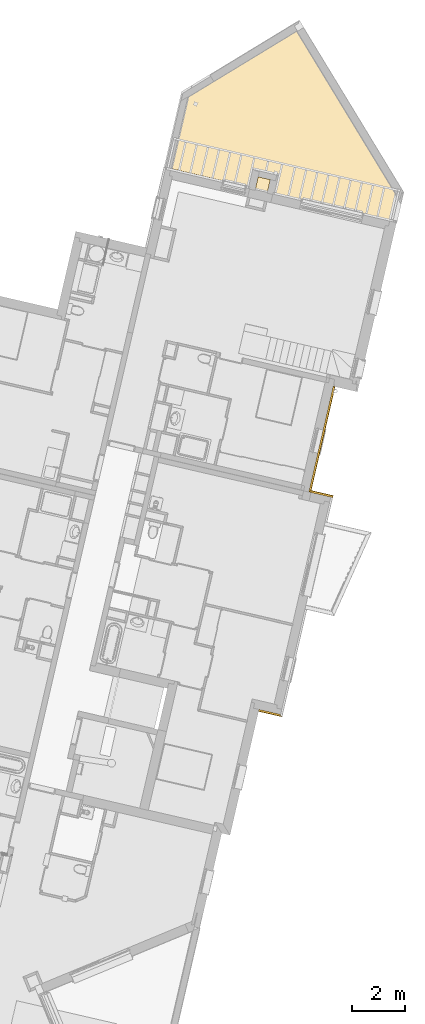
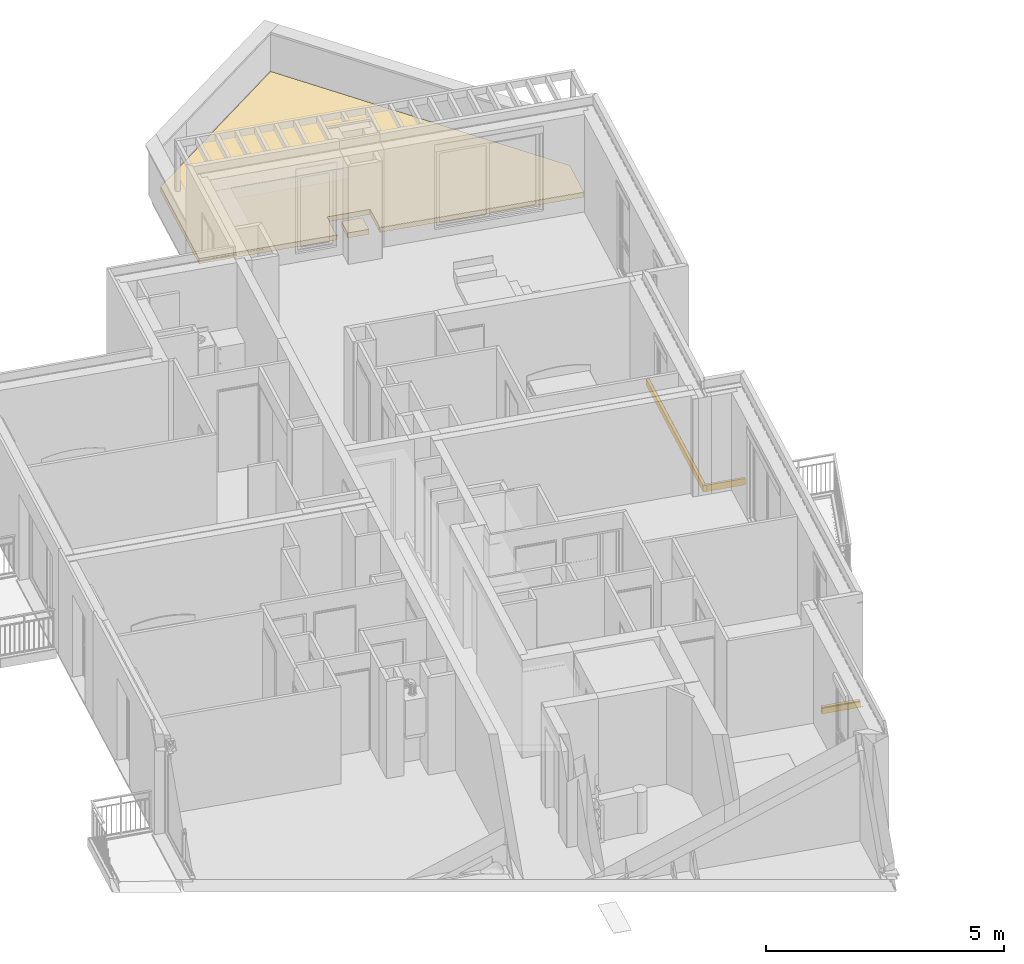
# One storey, part 43 of 62: 4 coverings.
"""IFC2X3 building model written with IfcOpenShell, lengths in metres."""

from ifc_helpers import new_model, entity, si_unit, converted_unit, derived_unit, money_unit, direction, frame, origin_with_axes, place, context, subcontext, project, spatial, faceted_brep, material, material_list, type_object, element, save


model = new_model("IFC2X3")

# Units and contexts
model_context = context("Model", 3, precision=1e-05, world=origin_with_axes(), true_north=direction((0.0, 1.0)))
body_context = subcontext(model_context, "Body", "Model", "MODEL_VIEW")
ifc_project = project(units=[si_unit("LENGTHUNIT", "METRE"), si_unit("AREAUNIT", "SQUARE_METRE"), si_unit("VOLUMEUNIT", "CUBIC_METRE"), converted_unit("PLANEANGLEUNIT", "DEGREE", entity("IfcPlaneAngleMeasure", 0.0174532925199), si_unit("PLANEANGLEUNIT", "RADIAN"), dimensions=[0, 0, 0, 0, 0, 0, 0]), si_unit("SOLIDANGLEUNIT", "STERADIAN"), money_unit("EUR"), converted_unit("TIMEUNIT", "Year", entity("IfcTimeMeasure", 31556926.0), si_unit("TIMEUNIT", "SECOND"), dimensions=[0, 0, 1, 0, 0, 0, 0]), si_unit("MASSUNIT", "GRAM", prefix="KILO"), si_unit("THERMODYNAMICTEMPERATUREUNIT", "DEGREE_CELSIUS"), si_unit("LUMINOUSINTENSITYUNIT", "LUMEN"), si_unit("ENERGYUNIT", "JOULE", prefix="MEGA"), derived_unit("THERMALCONDUCTANCEUNIT", [(si_unit("POWERUNIT", "WATT"), 1), (si_unit("LENGTHUNIT", "METRE"), -1), (si_unit("THERMODYNAMICTEMPERATUREUNIT", "KELVIN"), -1)]), derived_unit("SPECIFICHEATCAPACITYUNIT", [(si_unit("ENERGYUNIT", "JOULE"), 1), (si_unit("MASSUNIT", "GRAM", prefix="KILO"), -1), (si_unit("THERMODYNAMICTEMPERATUREUNIT", "KELVIN"), -1)]), derived_unit("MASSDENSITYUNIT", [(si_unit("MASSUNIT", "GRAM", prefix="KILO"), 1), (si_unit("VOLUMEUNIT", "CUBIC_METRE"), -1)])], contexts=[model_context])

# Site, building, storey
site_placement = place(None, origin_with_axes())
site = spatial("IfcSite", under=ifc_project, at=site_placement, Name="Site", CompositionType="ELEMENT")
building_placement = place(site_placement, origin_with_axes())
building = spatial("IfcBuilding", under=site, at=building_placement, Name="Bâtiment", CompositionType="ELEMENT")
storey_placement = place(building_placement, frame((0.0, 0.0, 8.16), z_axis=(0.0, 0.0, 1.0), x_axis=(1.0, 0.0, 0.0)))
storey = spatial("IfcBuildingStorey", under=building, at=storey_placement, Name="R+3", CompositionType="ELEMENT", Elevation=8.16)

# Coverings
ifc_material_1 = material(Name="Finition sol - Carrelage")
covering_type_1 = type_object("IfcCoveringType", Name="Bandeau de façade composite 80 x 165", PredefinedType="USERDEFINED")
covering_1_placement = place(storey_placement, frame((-1.97663873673, 2.63074442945, -0.165), z_axis=(0.0, 0.0, 1.0), x_axis=(0.22487619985, 0.974387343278, 0.0)))
element("IfcCovering", 1, at=covering_1_placement, inside=storey, type_object=covering_type_1, material=ifc_material_1, Name="Bandeaux de façade préfa composite", ObjectType="MOLDING", PredefinedType="USERDEFINED", context=body_context, shape_type="Brep", body=[
    faceted_brep([(-0.08, 0.0, 0.00621912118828), (-0.0258592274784, 0.0, 0.00621912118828), (-0.0177527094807, 0.0, 0.00621912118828), (-0.012552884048, 0.0, 0.0), (4.02599999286, 0.0, 0.0), (4.02599999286, 0.0, 0.00621912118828), (4.02599999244, 0.0, 0.144794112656), (-0.0799999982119, 0.0, 0.144794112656), (-0.0800000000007, 0.0177527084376, 0.00621912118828), (-0.025859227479, 0.0177527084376, 0.00621912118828), (-0.0177527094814, 0.0177527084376, 0.00621912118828), (-0.0125528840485, 0.0125528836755, 0.0), (4.02599999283, 0.0125528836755, 0.0), (4.02599999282, 0.0177527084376, 0.00621912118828), (4.0259999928, 0.0258592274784, 0.00621912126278), (4.02599999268, 0.08, 0.00621912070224), (4.02599999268, 0.08, 0.165000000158), (4.02599999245, 0.0142855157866, 0.16), (-0.0799999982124, 0.0142855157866, 0.16), (-0.0799999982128, 0.0258592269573, 0.00621912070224), (-0.0799999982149, 0.08, 0.164999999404), (-0.0799999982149, 0.08, 0.0), (-0.079999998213, 0.0310590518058, 0.0), (4.02599999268, 0.08, 0.0), (4.02599999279, 0.0310590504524, 0.0)], [[[0, 1, 2, 3, 4, 5, 6, 7]], [[8, 9, 1, 0]], [[10, 2, 1, 9]], [[10, 11, 3, 2]], [[4, 3, 11, 12]], [[12, 13, 5, 4]], [[6, 5, 13, 14, 15, 16, 17]], [[7, 6, 17, 18]], [[19, 8, 0, 7, 18, 20, 21, 22]], [[13, 10, 9, 8, 19, 14]], [[12, 11, 10, 13]], [[23, 15, 14, 24]], [[16, 15, 23, 21, 20]], [[18, 17, 16, 20]], [[21, 23, 24, 22]], [[22, 24, 14, 19]]]),
])
covering_2_placement = place(storey_placement, frame((-1.14274959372, 2.43829342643, -0.165), z_axis=(0.0, 0.0, 1.0), x_axis=(-0.974387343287, 0.224876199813, 0.0)))
element("IfcCovering", 2, at=covering_2_placement, inside=storey, type_object=covering_type_1, material=ifc_material_1, Name="Bandeaux de façade préfa composite", ObjectType="MOLDING", PredefinedType="USERDEFINED", context=body_context, shape_type="Brep", body=[
    faceted_brep([(1.78814163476e-09, 0.0, 0.0), (0.855808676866, 0.0, 0.0), (0.855808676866, 0.0, 0.00621912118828), (0.855808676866, 0.0, 0.144794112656), (1.78814163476e-09, 0.0, 0.144794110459), (1.78861192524e-09, 0.0125528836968, 0.0), (0.855808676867, 0.0125528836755, 0.0), (0.855808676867, 0.0177527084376, 0.00621912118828), (0.855808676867, 0.0258592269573, 0.00621912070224), (0.855808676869, 0.0799999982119, 0.00621912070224), (0.855808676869, 0.0799999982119, 0.144794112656), (0.870094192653, 0.0142855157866, 0.16), (0.0142855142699, 0.0142855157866, 0.160000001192), (1.79113834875e-09, 0.08, 0.144794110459), (0.0, 0.08, 0.00621912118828), (0.0, 0.0258592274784, 0.00621912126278), (1.78880665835e-09, 0.0177527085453, 0.00621912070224), (0.0177527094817, 0.0258592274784, 0.00621912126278), (0.0258592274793, 0.0258592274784, 0.00621912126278), (0.873561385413, 0.0258592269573, 0.00621912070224), (0.873561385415, 0.0799999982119, 0.00621912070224), (0.0310590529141, 0.08, 0.0), (0.0258592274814, 0.08, 0.00621912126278), (0.0177527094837, 0.08, 0.00621912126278), (0.0142855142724, 0.08, 0.160000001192), (0.0799999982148, 0.08, 0.164999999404), (0.935808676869, 0.0799999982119, 0.164999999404), (0.870094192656, 0.0799999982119, 0.16), (0.881667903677, 0.0799999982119, 0.00621912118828), (0.886867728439, 0.0799999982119, 0.0), (0.0310590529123, 0.0310590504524, 0.0), (0.886867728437, 0.0310590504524, 0.0), (0.881667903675, 0.0258592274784, 0.00621912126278)], [[[0, 1, 2, 3, 4]], [[5, 6, 1, 0]], [[6, 7, 2, 1]], [[3, 2, 7, 8, 9, 10]], [[4, 3, 11, 12]], [[13, 14, 15, 16, 5, 0, 4]], [[16, 7, 6, 5]], [[15, 17, 18, 8, 7, 16]], [[9, 8, 19, 20]], [[21, 22, 23, 14, 13, 24, 25, 26, 27, 10, 9, 20, 28, 29]], [[27, 11, 3, 10]], [[12, 11, 26, 25]], [[24, 13, 4, 12]], [[14, 23, 17, 15]], [[22, 18, 17, 23]], [[8, 18, 30, 31, 32, 19]], [[19, 32, 28, 20]], [[21, 30, 18, 22]], [[25, 24, 12]], [[27, 26, 11]], [[29, 28, 32, 31]], [[31, 30, 21, 29]]]),
])
covering_3_placement = place(storey_placement, frame((-3.98776258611, -5.72769290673, -0.165), z_axis=(0.0, 0.0, 1.0), x_axis=(0.974387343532, -0.224876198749, 0.0)))
element("IfcCovering", 3, at=covering_3_placement, inside=storey, type_object=covering_type_1, material=ifc_material_1, Name="Bandeaux de façade préfa composite", ObjectType="MOLDING", PredefinedType="USERDEFINED", context=body_context, shape_type="Brep", body=[
    faceted_brep([(0.909949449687, 0.0177527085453, 0.00621912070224), (0.918055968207, 0.0177527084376, 0.00621912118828), (0.923255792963, 0.0125528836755, 0.0), (0.0149999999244, 0.0125528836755, 0.0), (0.0149999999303, 0.0177527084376, 0.00621912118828), (0.855808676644, 0.0177527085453, 0.00621912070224), (0.909949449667, 0.0, 0.00621912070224), (0.918055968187, 0.0, 0.00621912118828), (0.923255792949, 0.0, 0.0), (0.0149999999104, 0.0, 0.0), (0.0149999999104, 0.0, 0.00621912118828), (0.0149999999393, 0.0258592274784, 0.00621912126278), (0.855808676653, 0.0258592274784, 0.00621912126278), (0.855808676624, 0.0, 0.00621912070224), (0.855808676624, 0.0, 0.144794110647), (0.0149999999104, 0.0, 0.144794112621), (0.0149999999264, 0.0142855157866, 0.160000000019), (0.015, 0.08, 0.165), (0.015, 0.08, 0.00621912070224), (0.0149999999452, 0.0310590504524, 0.0), (0.855808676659, 0.0310590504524, 0.0), (0.855808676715, 0.08, 0.00621912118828), (0.855808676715, 0.08, 0.165), (0.85580867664, 0.0142855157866, 0.160000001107), (0.855808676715, 0.08, 0.0), (0.015, 0.08, 0.0)], [[[0, 1, 2, 3, 4, 5]], [[6, 7, 1, 0]], [[7, 8, 2, 1]], [[3, 2, 8, 9]], [[9, 10, 4, 3]], [[11, 12, 5, 4]], [[6, 0, 5, 13]], [[9, 8, 7, 6, 13, 14, 15, 10]], [[11, 4, 10, 15, 16, 17, 18]], [[19, 20, 12, 11]], [[5, 12, 21, 22, 23, 14, 13]], [[15, 14, 23, 16]], [[16, 23, 22, 17]], [[22, 21, 24, 25, 18, 17]], [[19, 11, 18, 25]], [[25, 24, 20, 19]], [[20, 24, 21, 12]]]),
])
ifc_material_2 = material(Name="Finition sol - Dalles terrasse")
ifc_material_3 = material(Name="Divers - Vide")
ifc_material_list = material_list([ifc_material_2, ifc_material_3])
covering_type_2 = type_object("IfcCoveringType", Name="6 -Dalles sur plots 130", PredefinedType="INSULATION")
covering_4_placement = place(storey_placement, frame((-6.64328327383, 17.4921562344, 0.24), z_axis=(0.0, 0.0, 1.0), x_axis=(1.0, 0.0, 0.0)))
element("IfcCovering", 4, at=covering_4_placement, inside=storey, type_object=covering_type_2, material=ifc_material_list, Name="Dalle_004", PredefinedType="INSULATION", context=body_context, shape_type="Brep", body=[
    faceted_brep([(3.01328106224, -3.55045317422, 0.0), (3.11504814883, -3.10949694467, 0.0), (2.6577451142, -3.00395722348, 0.0), (2.5563520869, -3.44329265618, 0.0), (3.11504814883, -3.10949694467, -0.05), (3.01328106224, -3.55045317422, -0.05), (2.6577451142, -3.00395722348, -0.05), (2.5563520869, -3.44329265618, -0.05)], [[[0, 1, 2, 3]], [[4, 1, 0, 5]], [[1, 4, 6, 2]], [[2, 6, 7, 3]], [[5, 0, 3, 7]], [[4, 5, 7, 6]]]),
    faceted_brep([(2.34833684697, -3.38853993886, -0.01), (2.34703016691, -3.39420177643, -0.00999999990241), (2.34703016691, -3.39420177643, -0.04), (2.34833684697, -3.38853993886, -0.04), (0.750866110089, -3.01986402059, -0.01), (0.750866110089, -3.01986402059, -0.04), (-0.622606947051, -2.69775248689, -0.04), (-0.622606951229, -2.69775250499, -0.05), (2.32269040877, -3.3884935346, -0.05), (2.32269040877, -3.3884935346, -0.0399999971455), (2.32397716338, -3.38291803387, -0.04), (2.32510154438, -3.37804609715, -0.04), (-0.622606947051, -2.69775248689, -0.005), (-0.622606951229, -2.69775250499, 0.0), (0.0, 0.0, 0.0), (0.0, 0.0, -0.0176617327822), (-0.00012325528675, -0.000534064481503, -0.0178200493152), (-0.000123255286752, -0.000534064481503, -0.0471179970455), (0.0, 0.0, -0.0471179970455), (0.0, 0.0, -0.05), (3.24694274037, -3.60525229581, -0.05), (3.39387635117, -2.96858976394, -0.05), (3.40287139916, -2.92961427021, -0.05), (2.51683793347, -2.72512902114, -0.05), (2.47786243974, -2.71613397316, -0.05), (4.11913271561, 2.50359545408, -0.05), (7.84859522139, -3.63244022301, -0.05), (7.61827164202, -4.63043103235, -0.05), (2.47786243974, -2.71613397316, 0.0), (2.32269040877, -3.3884935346, 0.0), (2.32269040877, -3.3884935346, -0.00500000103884), (2.32510154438, -3.37804609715, -0.005), (3.39387635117, -2.96858976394, 0.0), (3.24694274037, -3.60525229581, 0.0), (7.61827164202, -4.63043103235, 0.0), (7.84859522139, -3.63244022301, 0.0), (4.11913271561, 2.50359545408, 0.0), (2.51683793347, -2.72512902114, 0.0), (3.40287139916, -2.92961427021, 0.0), (0.982453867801, 0.597132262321, -0.0471179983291), (0.982453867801, 0.597132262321, -0.0176617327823), (0.982657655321, 0.596796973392, -0.0178200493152), (0.982657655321, 0.596796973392, -0.0471179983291), (3.24694274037, -3.60525229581, -0.0399999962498), (3.24898611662, -3.5963983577, -0.0399999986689), (3.25011049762, -3.59152642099, -0.04), (3.25011049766, -3.5915264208, -0.00499999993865), (3.24694274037, -3.60525229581, -0.00499999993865), (7.62389355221, -4.60607132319, -0.01), (7.61827164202, -4.63043103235, -0.0100000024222), (7.61827164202, -4.63043103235, -0.00499999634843), (7.62501793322, -4.60119938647, -0.005), (7.62501793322, -4.60119938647, -0.04), (7.62389355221, -4.60607132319, -0.04), (3.22260298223, -3.59954405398, -0.00999999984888), (3.22260298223, -3.59954405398, -0.0399999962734), (3.22462643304, -3.59077645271, -0.0399999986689), (3.22462643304, -3.59077645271, -0.01)], [[[0, 1, 2, 3]], [[1, 0, 4]], [[5, 6, 7, 8, 9, 2, 1, 4]], [[10, 3, 2, 9]], [[0, 3, 10, 5, 4]], [[10, 11, 6, 5]], [[6, 12, 13, 14, 15, 16, 17, 18, 19, 7]], [[20, 21, 22, 23, 24, 8, 7, 19, 25, 26, 27]], [[11, 10, 9, 8, 24, 28, 29, 30, 31]], [[11, 31, 12, 6]], [[12, 30, 29, 13]], [[32, 33, 34, 35, 36, 14, 13, 29, 28, 37, 38]], [[18, 39, 40, 15, 14, 36, 25, 19]], [[15, 40, 41, 16]], [[17, 16, 41, 42]], [[39, 18, 17, 42]], [[33, 32, 21, 20, 43, 44, 45, 46, 47]], [[21, 32, 38, 22]], [[38, 37, 23, 22]], [[23, 37, 28, 24]], [[26, 25, 36, 35]], [[48, 49, 27, 26, 35, 34, 50, 51, 52, 53]], [[43, 20, 27, 49, 54, 55]], [[31, 30, 12]], [[33, 47, 50, 34]], [[40, 39, 42, 41]], [[56, 44, 43, 55]], [[45, 44, 53, 52]], [[46, 45, 52, 51]], [[47, 46, 51, 50]], [[57, 54, 49, 48]], [[56, 57, 48, 53, 44]], [[54, 57, 56, 55]]]),
    faceted_brep([(3.01328106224, -3.55045317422, -0.05), (3.11504814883, -3.10949694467, -0.05), (2.6577451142, -3.00395722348, -0.05), (2.5563520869, -3.44329265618, -0.05), (3.11504814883, -3.10949694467, -0.13), (3.01328106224, -3.55045317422, -0.13), (2.6577451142, -3.00395722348, -0.13), (2.5563520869, -3.44329265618, -0.13)], [[[0, 1, 2, 3]], [[4, 1, 0, 5]], [[1, 4, 6, 2]], [[2, 6, 7, 3]], [[5, 0, 3, 7]], [[4, 5, 7, 6]]]),
    faceted_brep([(3.39387635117, -2.96858976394, -0.13), (3.39387635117, -2.96858976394, -0.05), (3.40287139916, -2.92961427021, -0.05), (3.40287139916, -2.92961427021, -0.13), (3.24694274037, -3.60525229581, -0.05), (3.24694274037, -3.60525229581, -0.13), (7.61827164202, -4.63043103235, -0.05), (7.84859522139, -3.63244022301, -0.05), (4.11913271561, 2.50359545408, -0.05), (0.0, 0.0, -0.05), (-0.622606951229, -2.69775250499, -0.05), (2.32269040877, -3.3884935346, -0.05), (2.47786243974, -2.71613397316, -0.05), (2.51683793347, -2.72512902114, -0.05), (2.51683793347, -2.72512902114, -0.13), (2.47786243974, -2.71613397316, -0.13), (2.32269040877, -3.3884935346, -0.13), (-0.622606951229, -2.69775250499, -0.13), (0.0, 0.0, -0.13), (4.11913271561, 2.50359545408, -0.13), (7.84859522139, -3.63244022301, -0.13), (7.61827164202, -4.63043103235, -0.13)], [[[0, 1, 2, 3]], [[4, 1, 0, 5]], [[1, 4, 6, 7, 8, 9, 10, 11, 12, 13, 2]], [[2, 13, 14, 3]], [[5, 0, 3, 14, 15, 16, 17, 18, 19, 20, 21]], [[4, 5, 21, 6]], [[6, 21, 20, 7]], [[7, 20, 19, 8]], [[8, 19, 18, 9]], [[9, 18, 17, 10]], [[16, 11, 10, 17]], [[12, 11, 16, 15]], [[14, 13, 12, 15]]]),
])

save(model, "model.ifc")
